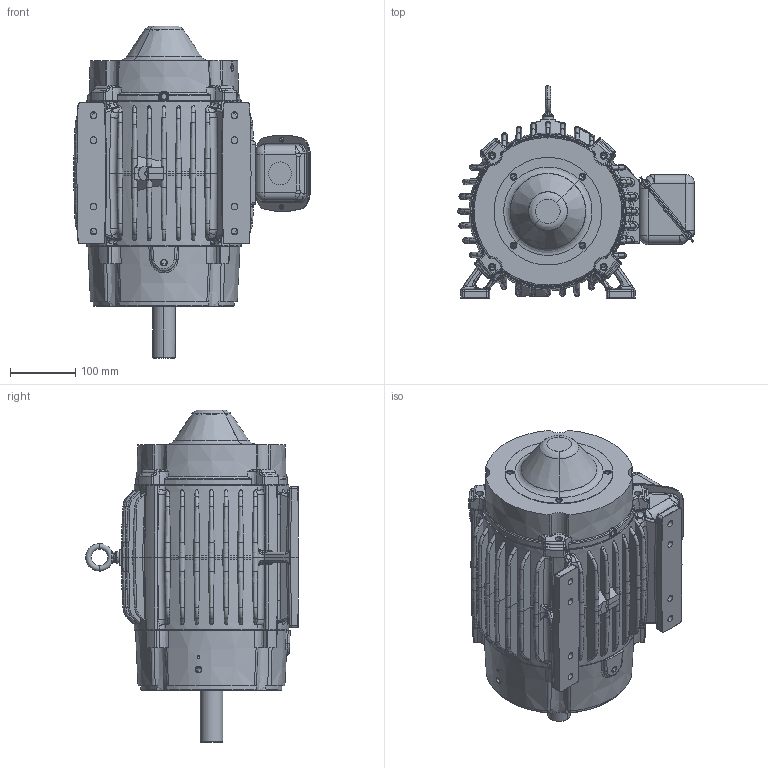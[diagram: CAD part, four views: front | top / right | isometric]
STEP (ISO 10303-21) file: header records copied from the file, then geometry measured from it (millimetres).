
FILE_DESCRIPTION((''),'2;1');
FILE_NAME('210_CFACE_TENV_INVERTER_ASM','2020-01-03T08:43:28',('EMD2341'),('Nidec Motor Corporation'),'CREO PARAMETRIC BY PTC INC, 2019080','CREO PARAMETRIC BY PTC INC, 2019080','');
FILE_SCHEMA(('CONFIG_CONTROL_DESIGN'));
Products named in the file (10): 0955700; 0477110; 0172877; 2033449; 0377667; 0377668; 0133167; 2033629; 0622701; 210_CFACE_TENV_INVERTER_ASM
Assembly tree (9 placements, depth 2):
  210_CFACE_TENV_INVERTER_ASM
    0955700
    0477110
    0172877
    2033449
    0377667
    0377668
    0133167
    2033629
    0622701
Bounding box: 362.29 x 325.43 x 508.23 mm (x, y, z)
Volume: 5720441.4 mm3; surface area: 1317959.5 mm2
Topology: 11 solids, 39 shells, 2869 faces, 7009 edges, 4182 vertices
Faces by surface type: bspline 1241, cylinder 606, plane 475, torus 248, cone 198, sphere 101
Entity records: 134693 total; most frequent: CARTESIAN_POINT 76579, ORIENTED_EDGE 13830, DIRECTION 9752, EDGE_CURVE 6971, AXIS2_PLACEMENT_3D 4253, VERTEX_POINT 4182, B_SPLINE_CURVE_WITH_KNOTS 3127, EDGE_LOOP 3035
